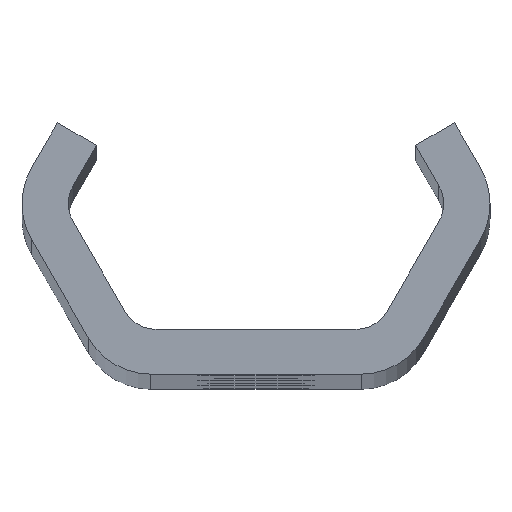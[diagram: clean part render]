
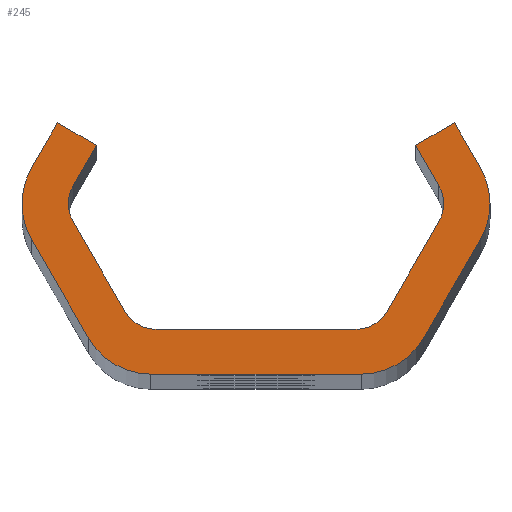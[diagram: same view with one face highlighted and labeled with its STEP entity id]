
A CAD part, top view. The second image highlights one B-rep face of the part: STEP entity #245.
In plain terms, the highlighted planar face has unit normal (0, 0, 1).
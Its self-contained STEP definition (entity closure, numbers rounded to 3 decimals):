
#245=ADVANCED_FACE('NONE',(#625),#626,.F.);
#625=FACE_OUTER_BOUND('',#1811,.T.);
#626=PLANE('',#1812);
#1811=EDGE_LOOP('',(#3609,#3610,#3611,#3612,#3613,#3614,#3615,#3616,#3617,#3618,#3619,#3620,#3621,#3622,#3623,#3624,#3625,#3626,#3627,#3628,#3629,#3630,#3631,#3632));
#1812=AXIS2_PLACEMENT_3D('',#3633,#3634,#3635);
#3609=ORIENTED_EDGE('',*,*,#4809,.T.);
#3610=ORIENTED_EDGE('',*,*,#4826,.T.);
#3611=ORIENTED_EDGE('',*,*,#4811,.T.);
#3612=ORIENTED_EDGE('',*,*,#4827,.T.);
#3613=ORIENTED_EDGE('',*,*,#4820,.F.);
#3614=ORIENTED_EDGE('',*,*,#4828,.T.);
#3615=ORIENTED_EDGE('',*,*,#4602,.T.);
#3616=ORIENTED_EDGE('',*,*,#4823,.F.);
#3617=ORIENTED_EDGE('',*,*,#4698,.F.);
#3618=ORIENTED_EDGE('',*,*,#4702,.F.);
#3619=ORIENTED_EDGE('',*,*,#4656,.T.);
#3620=ORIENTED_EDGE('',*,*,#4829,.T.);
#3621=ORIENTED_EDGE('',*,*,#4706,.F.);
#3622=ORIENTED_EDGE('',*,*,#4830,.T.);
#3623=ORIENTED_EDGE('',*,*,#4711,.F.);
#3624=ORIENTED_EDGE('',*,*,#4831,.T.);
#3625=ORIENTED_EDGE('',*,*,#4792,.T.);
#3626=ORIENTED_EDGE('',*,*,#4832,.T.);
#3627=ORIENTED_EDGE('',*,*,#4597,.T.);
#3628=ORIENTED_EDGE('',*,*,#4795,.T.);
#3629=ORIENTED_EDGE('',*,*,#4801,.T.);
#3630=ORIENTED_EDGE('',*,*,#4805,.T.);
#3631=ORIENTED_EDGE('',*,*,#4833,.T.);
#3632=ORIENTED_EDGE('',*,*,#4659,.T.);
#3633=CARTESIAN_POINT('',(0.0,0.0,480.0));
#3634=DIRECTION('',(0.0,0.0,-1.0));
#3635=DIRECTION('',(0.0,-1.0,0.0));
#4597=EDGE_CURVE('NONE',#5144,#5148,#5150,.T.);
#4602=EDGE_CURVE('NONE',#5153,#5157,#5159,.T.);
#4656=EDGE_CURVE('NONE',#5256,#5254,#5257,.T.);
#4659=EDGE_CURVE('NONE',#5260,#5261,#5262,.T.);
#4698=EDGE_CURVE('NONE',#5320,#5322,#5323,.T.);
#4702=EDGE_CURVE('NONE',#5256,#5320,#5327,.T.);
#4706=EDGE_CURVE('NONE',#5332,#5334,#5335,.T.);
#4711=EDGE_CURVE('NONE',#5341,#5343,#5344,.T.);
#4792=EDGE_CURVE('NONE',#5498,#5496,#5499,.T.);
#4795=EDGE_CURVE('NONE',#5148,#5502,#5503,.T.);
#4801=EDGE_CURVE('NONE',#5502,#5510,#5512,.T.);
#4805=EDGE_CURVE('NONE',#5510,#5516,#5518,.T.);
#4809=EDGE_CURVE('NONE',#5261,#5522,#5524,.T.);
#4811=EDGE_CURVE('NONE',#5526,#5527,#5528,.T.);
#4820=EDGE_CURVE('NONE',#5540,#5542,#5543,.T.);
#4823=EDGE_CURVE('NONE',#5322,#5157,#5546,.T.);
#4826=EDGE_CURVE('NONE',#5522,#5526,#5549,.T.);
#4827=EDGE_CURVE('NONE',#5527,#5542,#5550,.T.);
#4828=EDGE_CURVE('NONE',#5540,#5153,#5551,.T.);
#4829=EDGE_CURVE('NONE',#5254,#5334,#5552,.T.);
#4830=EDGE_CURVE('NONE',#5332,#5343,#5553,.T.);
#4831=EDGE_CURVE('NONE',#5341,#5498,#5554,.T.);
#4832=EDGE_CURVE('NONE',#5496,#5144,#5555,.T.);
#4833=EDGE_CURVE('NONE',#5516,#5260,#5556,.T.);
#5144=VERTEX_POINT('',#5957);
#5148=VERTEX_POINT('NONE',#5962);
#5150=CIRCLE('',#5965,2.0);
#5153=VERTEX_POINT('',#5968);
#5157=VERTEX_POINT('NONE',#5973);
#5159=CIRCLE('',#5976,4.0);
#5254=VERTEX_POINT('NONE',#6775);
#5256=VERTEX_POINT('NONE',#6778);
#5257=CIRCLE('',#6779,2.0);
#5260=VERTEX_POINT('NONE',#6783);
#5261=VERTEX_POINT('NONE',#6784);
#5262=CIRCLE('',#6785,4.0);
#5320=VERTEX_POINT('NONE',#6854);
#5322=VERTEX_POINT('NONE',#6857);
#5323=LINE('',#6858,#6859);
#5327=LINE('',#6865,#6866);
#5332=VERTEX_POINT('NONE',#6872);
#5334=VERTEX_POINT('NONE',#6875);
#5335=LINE('',#6876,#6877);
#5341=VERTEX_POINT('NONE',#6885);
#5343=VERTEX_POINT('NONE',#6888);
#5344=LINE('',#6889,#6890);
#5496=VERTEX_POINT('NONE',#7444);
#5498=VERTEX_POINT('NONE',#7447);
#5499=LINE('',#7448,#7449);
#5502=VERTEX_POINT('NONE',#7453);
#5503=LINE('',#7454,#7455);
#5510=VERTEX_POINT('NONE',#7465);
#5512=LINE('',#7468,#7469);
#5516=VERTEX_POINT('NONE',#7474);
#5518=LINE('',#7477,#7478);
#5522=VERTEX_POINT('NONE',#7483);
#5524=LINE('',#7486,#7487);
#5526=VERTEX_POINT('NONE',#7489);
#5527=VERTEX_POINT('NONE',#7490);
#5528=LINE('',#7491,#7492);
#5540=VERTEX_POINT('NONE',#7508);
#5542=VERTEX_POINT('NONE',#7511);
#5543=LINE('',#7512,#7513);
#5546=LINE('',#7517,#7518);
#5549=CIRCLE('',#7522,4.0);
#5550=CIRCLE('',#7523,4.0);
#5551=CIRCLE('',#7524,4.0);
#5552=CIRCLE('',#7525,2.0);
#5553=CIRCLE('',#7526,2.0);
#5554=CIRCLE('',#7527,2.0);
#5555=CIRCLE('',#7528,2.0);
#5556=CIRCLE('',#7529,4.0);
#5957=CARTESIAN_POINT('',(-10.455,0.,480.0));
#5962=CARTESIAN_POINT('',(-10.187,1.,480.0));
#5965=AXIS2_PLACEMENT_3D('',#8833,#8834,#8835);
#5968=CARTESIAN_POINT('',(13.032,0.,480.0));
#5973=CARTESIAN_POINT('',(12.496,2.,480.0));
#5976=AXIS2_PLACEMENT_3D('',#8841,#8842,#8843);
#6775=CARTESIAN_POINT('',(10.455,0.,480.0));
#6778=CARTESIAN_POINT('',(10.187,1.,480.0));
#6779=AXIS2_PLACEMENT_3D('',#8880,#8881,#8882);
#6783=CARTESIAN_POINT('',(-13.032,0.,480.0));
#6784=CARTESIAN_POINT('',(-12.496,-2.,480.0));
#6785=AXIS2_PLACEMENT_3D('',#8884,#8885,#8886);
#6854=CARTESIAN_POINT('',(8.888,3.25,480.0));
#6857=CARTESIAN_POINT('',(11.053,4.5,480.0));
#6858=CARTESIAN_POINT('',(8.888,3.25,480.0));
#6859=VECTOR('',#8950,1000.0);
#6865=CARTESIAN_POINT('',(10.764,0.,480.0));
#6866=VECTOR('',#8953,1000.0);
#6872=CARTESIAN_POINT('',(7.3,-6.,480.0));
#6875=CARTESIAN_POINT('',(10.187,-1.,480.0));
#6876=CARTESIAN_POINT('',(6.723,-7.0,480.0));
#6877=VECTOR('',#8956,1000.0);
#6885=CARTESIAN_POINT('',(-5.568,-7.0,480.0));
#6888=CARTESIAN_POINT('',(5.568,-7.0,480.0));
#6889=CARTESIAN_POINT('',(-6.723,-7.0,480.0));
#6890=VECTOR('',#8960,1000.0);
#7444=CARTESIAN_POINT('',(-10.187,-1.,480.0));
#7447=CARTESIAN_POINT('',(-7.3,-6.,480.0));
#7448=CARTESIAN_POINT('',(-6.723,-7.0,480.0));
#7449=VECTOR('',#9036,1000.0);
#7453=CARTESIAN_POINT('',(-8.888,3.25,480.0));
#7454=CARTESIAN_POINT('',(-10.764,0.0,480.0));
#7455=VECTOR('',#9038,1000.0);
#7465=CARTESIAN_POINT('',(-11.053,4.5,480.0));
#7468=CARTESIAN_POINT('',(-8.888,3.25,480.0));
#7469=VECTOR('',#9043,1000.0);
#7474=CARTESIAN_POINT('',(-12.496,2.0,480.0));
#7477=CARTESIAN_POINT('',(-11.053,4.5,480.0));
#7478=VECTOR('',#9046,1000.0);
#7483=CARTESIAN_POINT('',(-9.321,-7.5,480.0));
#7486=CARTESIAN_POINT('',(-13.651,0.0,480.0));
#7487=VECTOR('',#9049,1000.0);
#7489=CARTESIAN_POINT('',(-5.857,-9.5,480.0));
#7490=CARTESIAN_POINT('',(5.857,-9.5,480.0));
#7491=CARTESIAN_POINT('',(-8.166,-9.5,480.0));
#7492=VECTOR('',#9050,1000.0);
#7508=CARTESIAN_POINT('',(12.496,-2.,480.0));
#7511=CARTESIAN_POINT('',(9.321,-7.5,480.0));
#7512=CARTESIAN_POINT('',(13.651,0.,480.0));
#7513=VECTOR('',#9062,1000.0);
#7517=CARTESIAN_POINT('',(11.053,4.5,480.0));
#7518=VECTOR('',#9064,1000.0);
#7522=AXIS2_PLACEMENT_3D('',#9066,#9067,#9068);
#7523=AXIS2_PLACEMENT_3D('',#9069,#9070,#9071);
#7524=AXIS2_PLACEMENT_3D('',#9072,#9073,#9074);
#7525=AXIS2_PLACEMENT_3D('',#9075,#9076,#9077);
#7526=AXIS2_PLACEMENT_3D('',#9078,#9079,#9080);
#7527=AXIS2_PLACEMENT_3D('',#9081,#9082,#9083);
#7528=AXIS2_PLACEMENT_3D('',#9084,#9085,#9086);
#7529=AXIS2_PLACEMENT_3D('',#9087,#9088,#9089);
#8833=CARTESIAN_POINT('',(-8.455,0.,480.0));
#8834=DIRECTION('',(0.0,0.0,-1.0));
#8835=DIRECTION('',(-1.0,0.0,0.0));
#8841=CARTESIAN_POINT('',(9.032,0.,480.0));
#8842=DIRECTION('',(0.0,0.0,1.0));
#8843=DIRECTION('',(-1.0,0.0,0.0));
#8880=CARTESIAN_POINT('',(8.455,0.,480.0));
#8881=DIRECTION('',(0.0,0.0,-1.0));
#8882=DIRECTION('',(-1.0,0.0,0.0));
#8884=CARTESIAN_POINT('',(-9.032,0.,480.0));
#8885=DIRECTION('',(0.0,0.0,1.0));
#8886=DIRECTION('',(-1.0,0.0,0.0));
#8950=DIRECTION('',(0.866,0.5,0.0));
#8953=DIRECTION('',(-0.5,0.866,0.0));
#8956=DIRECTION('',(0.5,0.866,0.0));
#8960=DIRECTION('',(1.0,0.,0.0));
#9036=DIRECTION('',(-0.5,0.866,0.0));
#9038=DIRECTION('',(0.5,0.866,0.0));
#9043=DIRECTION('',(-0.866,0.5,0.0));
#9046=DIRECTION('',(-0.5,-0.866,0.0));
#9049=DIRECTION('',(0.5,-0.866,0.0));
#9050=DIRECTION('',(1.0,0.,0.0));
#9062=DIRECTION('',(-0.5,-0.866,0.0));
#9064=DIRECTION('',(0.5,-0.866,0.0));
#9066=CARTESIAN_POINT('',(-5.857,-5.5,480.0));
#9067=DIRECTION('',(0.0,0.0,1.0));
#9068=DIRECTION('',(-1.0,0.0,0.0));
#9069=CARTESIAN_POINT('',(5.857,-5.5,480.0));
#9070=DIRECTION('',(0.0,0.0,1.0));
#9071=DIRECTION('',(-1.0,0.0,0.0));
#9072=CARTESIAN_POINT('',(9.032,0.,480.0));
#9073=DIRECTION('',(0.0,0.0,1.0));
#9074=DIRECTION('',(-1.0,0.0,0.0));
#9075=CARTESIAN_POINT('',(8.455,0.,480.0));
#9076=DIRECTION('',(0.0,0.0,-1.0));
#9077=DIRECTION('',(-1.0,0.0,0.0));
#9078=CARTESIAN_POINT('',(5.568,-5.0,480.0));
#9079=DIRECTION('',(0.0,0.0,-1.0));
#9080=DIRECTION('',(-1.0,0.0,0.0));
#9081=CARTESIAN_POINT('',(-5.568,-5.0,480.0));
#9082=DIRECTION('',(0.0,0.0,-1.0));
#9083=DIRECTION('',(-1.0,0.0,0.0));
#9084=CARTESIAN_POINT('',(-8.455,0.,480.0));
#9085=DIRECTION('',(0.0,0.0,-1.0));
#9086=DIRECTION('',(-1.0,0.0,0.0));
#9087=CARTESIAN_POINT('',(-9.032,0.,480.0));
#9088=DIRECTION('',(0.0,0.0,1.0));
#9089=DIRECTION('',(-1.0,0.,0.0));
